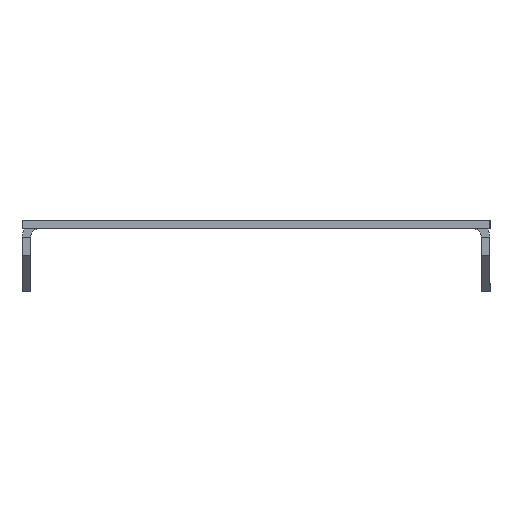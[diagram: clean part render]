
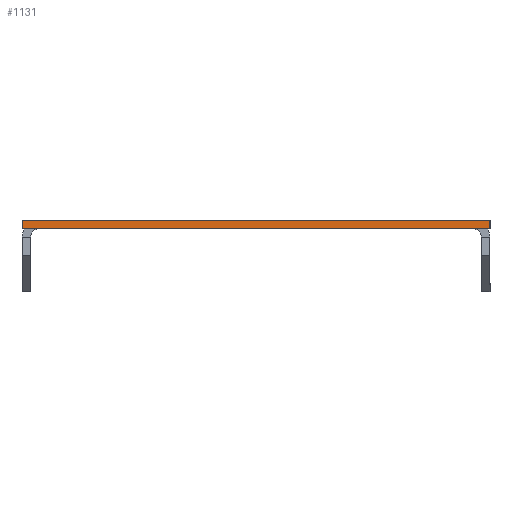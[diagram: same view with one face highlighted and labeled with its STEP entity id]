
A CAD part, left-side view. The second image highlights one B-rep face of the part: STEP entity #1131.
In plain terms, the highlighted planar face has unit normal (-1, 0, 0).
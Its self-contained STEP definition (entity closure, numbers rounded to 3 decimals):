
#38 = VECTOR ( 'NONE', #178, 1000. ) ;
#87 = DIRECTION ( 'NONE',  ( 0., 0., -1. ) ) ;
#88 = CARTESIAN_POINT ( 'NONE',  ( -241.3, -32.7, 1.2 ) ) ;
#89 = LINE ( 'NONE', #88, #1817 ) ;
#178 = DIRECTION ( 'NONE',  ( 0., -1., 0. ) ) ;
#179 = CARTESIAN_POINT ( 'NONE',  ( -241.3, 32.7, 0. ) ) ;
#180 = LINE ( 'NONE', #179, #38 ) ;
#332 = CARTESIAN_POINT ( 'NONE',  ( -241.3, -32.7, 0. ) ) ;
#353 = CARTESIAN_POINT ( 'NONE',  ( -241.3, 32.7, 0. ) ) ;
#356 = CARTESIAN_POINT ( 'NONE',  ( -241.3, 32.7, 1.2 ) ) ;
#359 = CARTESIAN_POINT ( 'NONE',  ( -241.3, -32.7, 1.2 ) ) ;
#549 = VERTEX_POINT ( 'NONE', #359 ) ;
#552 = VERTEX_POINT ( 'NONE', #356 ) ;
#555 = VERTEX_POINT ( 'NONE', #353 ) ;
#576 = VERTEX_POINT ( 'NONE', #332 ) ;
#630 = EDGE_LOOP ( 'NONE', ( #760, #761, #759, #763 ) ) ;
#759 = ORIENTED_EDGE ( 'NONE', *, *, #1129, .F. ) ;
#760 = ORIENTED_EDGE ( 'NONE', *, *, #921, .T. ) ;
#761 = ORIENTED_EDGE ( 'NONE', *, *, #968, .F. ) ;
#763 = ORIENTED_EDGE ( 'NONE', *, *, #1093, .T. ) ;
#921 = EDGE_CURVE ( 'NONE', #555, #576, #180, .T. ) ;
#968 = EDGE_CURVE ( 'NONE', #549, #576, #89, .T. ) ;
#1093 = EDGE_CURVE ( 'NONE', #552, #555, #1325, .T. ) ;
#1129 = EDGE_CURVE ( 'NONE', #552, #549, #1226, .T. ) ;
#1131 = ADVANCED_FACE ( 'NONE', ( #1685 ), #1230, .F. ) ;
#1218 = DIRECTION ( 'NONE',  ( 0., 0., -1. ) ) ;
#1219 = DIRECTION ( 'NONE',  ( 1., 0., 0. ) ) ;
#1220 = CARTESIAN_POINT ( 'NONE',  ( -241.3, 32.7, 1.2 ) ) ;
#1224 = DIRECTION ( 'NONE',  ( 0., -1., 0. ) ) ;
#1225 = CARTESIAN_POINT ( 'NONE',  ( -241.3, 32.7, 1.2 ) ) ;
#1226 = LINE ( 'NONE', #1225, #1681 ) ;
#1230 = PLANE ( 'NONE',  #1684 ) ;
#1323 = DIRECTION ( 'NONE',  ( 0., 0., -1. ) ) ;
#1324 = CARTESIAN_POINT ( 'NONE',  ( -241.3, 32.7, 1.2 ) ) ;
#1325 = LINE ( 'NONE', #1324, #1708 ) ;
#1681 = VECTOR ( 'NONE', #1224, 1000. ) ;
#1684 = AXIS2_PLACEMENT_3D ( 'NONE', #1220, #1219, #1218 ) ;
#1685 = FACE_OUTER_BOUND ( 'NONE', #630, .T. ) ;
#1708 = VECTOR ( 'NONE', #1323, 1000. ) ;
#1817 = VECTOR ( 'NONE', #87, 1000. ) ;
